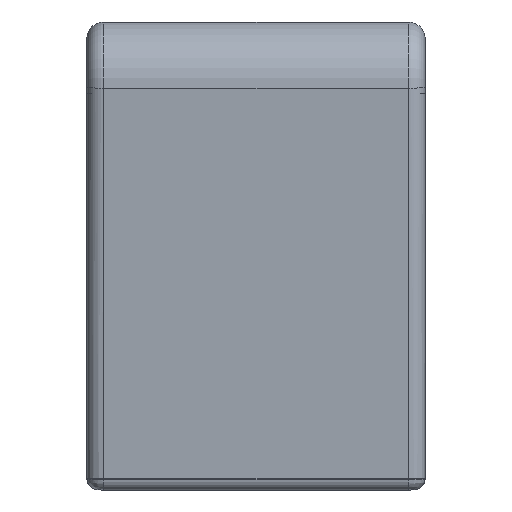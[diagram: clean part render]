
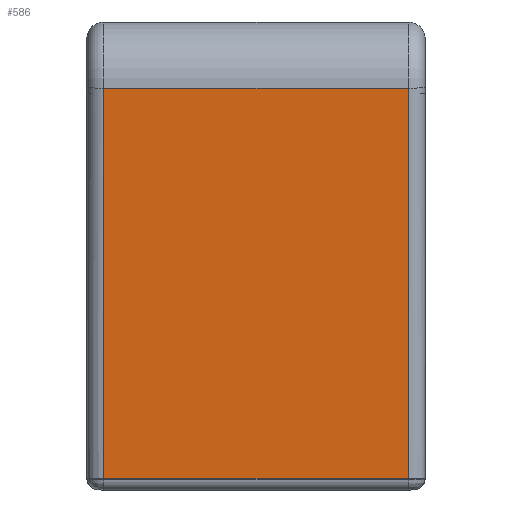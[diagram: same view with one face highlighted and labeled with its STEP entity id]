
A CAD part, left-side view. The second image highlights one B-rep face of the part: STEP entity #586.
In plain terms, the highlighted planar face has unit normal (-0.998, 0, -0.067).
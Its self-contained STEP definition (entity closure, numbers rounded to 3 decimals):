
#20 = EDGE_LOOP ( 'NONE', ( #1561, #1560, #1559, #1558 ) ) ;
#298 = EDGE_CURVE ( 'NONE', #5023, #5097, #2158, .T. ) ;
#299 = EDGE_CURVE ( 'NONE', #5097, #5045, #2160, .T. ) ;
#300 = EDGE_CURVE ( 'NONE', #5045, #4980, #2162, .T. ) ;
#301 = EDGE_CURVE ( 'NONE', #5023, #4980, #2164, .T. ) ;
#586 = ADVANCED_FACE ( 'NONE', ( #2471 ), #3918, .T. ) ;
#749 = AXIS2_PLACEMENT_3D ( 'NONE', #3919, #3921, #3923 ) ;
#1245 = CARTESIAN_POINT ( 'NONE',  ( -342.388, -13.5, 28.632 ) ) ;
#1288 = CARTESIAN_POINT ( 'NONE',  ( -342.388, 13.5, 28.632 ) ) ;
#1310 = CARTESIAN_POINT ( 'NONE',  ( -340.063, -13.5, -6.067 ) ) ;
#1362 = CARTESIAN_POINT ( 'NONE',  ( -340.063, 13.5, -6.067 ) ) ;
#1558 = ORIENTED_EDGE ( 'NONE', *, *, #301, .F. ) ;
#1559 = ORIENTED_EDGE ( 'NONE', *, *, #300, .T. ) ;
#1560 = ORIENTED_EDGE ( 'NONE', *, *, #299, .T. ) ;
#1561 = ORIENTED_EDGE ( 'NONE', *, *, #298, .T. ) ;
#2158 = LINE ( 'NONE', #3996, #2159 ) ;
#2159 = VECTOR ( 'NONE', #3994, 1000. ) ;
#2160 = LINE ( 'NONE', #3990, #2161 ) ;
#2161 = VECTOR ( 'NONE', #3988, 1000. ) ;
#2162 = LINE ( 'NONE', #3985, #2163 ) ;
#2163 = VECTOR ( 'NONE', #3982, 1000. ) ;
#2164 = LINE ( 'NONE', #3979, #2165 ) ;
#2165 = VECTOR ( 'NONE', #3978, 1000. ) ;
#2471 = FACE_OUTER_BOUND ( 'NONE', #20, .T. ) ;
#3918 = PLANE ( 'NONE',  #749 ) ;
#3919 = CARTESIAN_POINT ( 'NONE',  ( -340., 15., -7. ) ) ;
#3921 = DIRECTION ( 'NONE',  ( -0.998, 0., -0.067 ) ) ;
#3923 = DIRECTION ( 'NONE',  ( -0.067, 0., 0.998 ) ) ;
#3978 = DIRECTION ( 'NONE',  ( 0., -1., 0. ) ) ;
#3979 = CARTESIAN_POINT ( 'NONE',  ( -342.388, 15., 28.632 ) ) ;
#3982 = DIRECTION ( 'NONE',  ( -0.067, 0., 0.998 ) ) ;
#3985 = CARTESIAN_POINT ( 'NONE',  ( -342.388, -13.5, 28.632 ) ) ;
#3988 = DIRECTION ( 'NONE',  ( 0., -1., 0. ) ) ;
#3990 = CARTESIAN_POINT ( 'NONE',  ( -340.063, 15., -6.067 ) ) ;
#3994 = DIRECTION ( 'NONE',  ( 0.067, 0., -0.998 ) ) ;
#3996 = CARTESIAN_POINT ( 'NONE',  ( -340., 13.5, -7. ) ) ;
#4980 = VERTEX_POINT ( 'NONE', #1245 ) ;
#5023 = VERTEX_POINT ( 'NONE', #1288 ) ;
#5045 = VERTEX_POINT ( 'NONE', #1310 ) ;
#5097 = VERTEX_POINT ( 'NONE', #1362 ) ;
